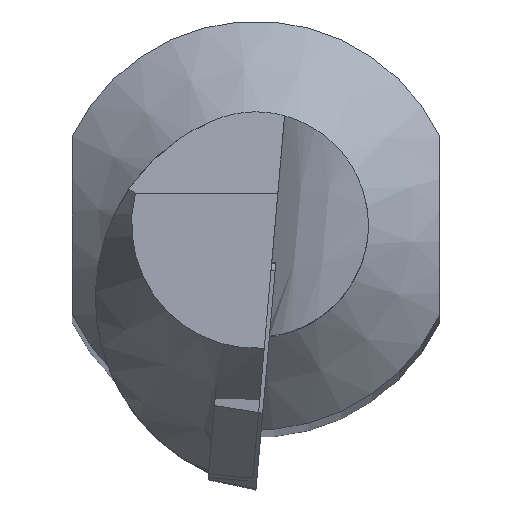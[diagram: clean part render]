
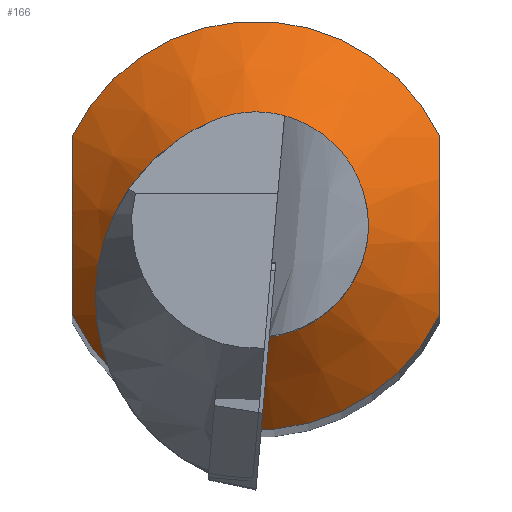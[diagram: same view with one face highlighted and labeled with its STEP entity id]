
A CAD part, top view. The second image highlights one B-rep face of the part: STEP entity #166.
In plain terms, the highlighted conical face has half-angle 45 degrees and reference radius 10 mm.
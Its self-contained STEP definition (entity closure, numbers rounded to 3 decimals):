
#104=B_SPLINE_CURVE_WITH_KNOTS('',3,(#678,#679,#680,#681,#682,#683),
 .UNSPECIFIED.,.F.,.F.,(4,2,4),(0.,0.5,1.),.UNSPECIFIED.);
#105=B_SPLINE_CURVE_WITH_KNOTS('',3,(#687,#688,#689,#690,#691,#692),
 .UNSPECIFIED.,.F.,.F.,(4,2,4),(0.,0.5,1.),.UNSPECIFIED.);
#129=FACE_BOUND('',#223,.T.);
#130=FACE_BOUND('',#224,.T.);
#137=CONICAL_SURFACE('',#497,10.,45.);
#148=CIRCLE('',#493,10.);
#149=CIRCLE('',#495,5.5);
#150=CIRCLE('',#496,10.);
#166=ADVANCED_FACE('',(#129,#130),#137,.T.);
#223=EDGE_LOOP('',(#284));
#224=EDGE_LOOP('',(#285,#286,#287,#288));
#284=ORIENTED_EDGE('',*,*,#401,.F.);
#285=ORIENTED_EDGE('',*,*,#399,.T.);
#286=ORIENTED_EDGE('',*,*,#402,.T.);
#287=ORIENTED_EDGE('',*,*,#403,.T.);
#288=ORIENTED_EDGE('',*,*,#404,.F.);
#358=VERTEX_POINT('',#671);
#359=VERTEX_POINT('',#673);
#360=VERTEX_POINT('',#677);
#361=VERTEX_POINT('',#684);
#362=VERTEX_POINT('',#686);
#399=EDGE_CURVE('',#359,#358,#148,.T.);
#401=EDGE_CURVE('',#360,#360,#149,.T.);
#402=EDGE_CURVE('',#358,#361,#104,.T.);
#403=EDGE_CURVE('',#361,#362,#150,.T.);
#404=EDGE_CURVE('',#359,#362,#105,.T.);
#493=AXIS2_PLACEMENT_3D('',#672,#566,#567);
#495=AXIS2_PLACEMENT_3D('',#676,#571,#572);
#496=AXIS2_PLACEMENT_3D('',#685,#573,#574);
#497=AXIS2_PLACEMENT_3D('',#693,#575,#576);
#566=DIRECTION('',(0.,0.,1.));
#567=DIRECTION('',(1.,0.,0.));
#571=DIRECTION('',(0.,0.,1.));
#572=DIRECTION('',(1.,0.,0.));
#573=DIRECTION('',(0.,0.,1.));
#574=DIRECTION('',(1.,0.,0.));
#575=DIRECTION('',(0.,0.,-1.));
#576=DIRECTION('',(-1.,0.,0.));
#671=CARTESIAN_POINT('',(-9.,4.359,-47.1));
#672=CARTESIAN_POINT('',(0.,0.,-47.1));
#673=CARTESIAN_POINT('',(9.,4.359,-47.1));
#676=CARTESIAN_POINT('',(0.,0.,-42.6));
#677=CARTESIAN_POINT('',(5.5,0.,-42.6));
#678=CARTESIAN_POINT('',(-9.,4.359,-47.1));
#679=CARTESIAN_POINT('',(-9.,2.986,-46.502));
#680=CARTESIAN_POINT('',(-9.,1.515,-46.1));
#681=CARTESIAN_POINT('',(-9.,-1.519,-46.1));
#682=CARTESIAN_POINT('',(-9.,-2.987,-46.502));
#683=CARTESIAN_POINT('',(-9.,-4.359,-47.1));
#684=CARTESIAN_POINT('',(-9.,-4.359,-47.1));
#685=CARTESIAN_POINT('',(0.,0.,-47.1));
#686=CARTESIAN_POINT('',(9.,-4.359,-47.1));
#687=CARTESIAN_POINT('',(9.,4.359,-47.1));
#688=CARTESIAN_POINT('',(9.,2.986,-46.502));
#689=CARTESIAN_POINT('',(9.,1.515,-46.1));
#690=CARTESIAN_POINT('',(9.,-1.519,-46.1));
#691=CARTESIAN_POINT('',(9.,-2.987,-46.502));
#692=CARTESIAN_POINT('',(9.,-4.359,-47.1));
#693=CARTESIAN_POINT('',(0.,0.,-47.1));
